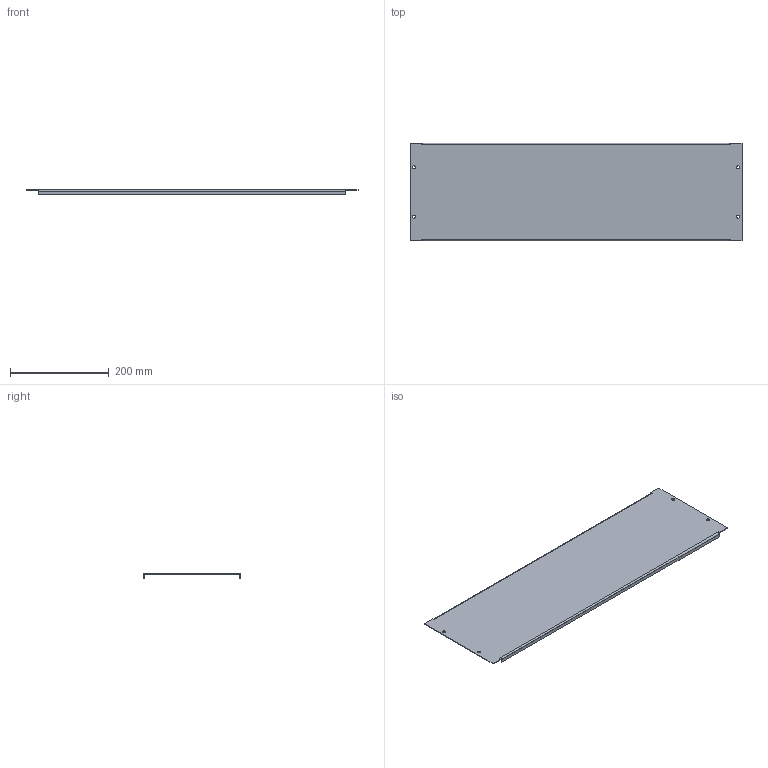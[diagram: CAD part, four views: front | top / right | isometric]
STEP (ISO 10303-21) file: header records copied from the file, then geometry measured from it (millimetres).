
FILE_DESCRIPTION(('STEP AP203'), '1');
FILE_NAME('Ïëàñòðîí ãëóõîé 200õ800 ìì OptiBox M 419394 ÊÝÀÇ', '', ('UNSPECIFIED'), ('UNSPECIFIED'), 'C3D Converter', 'C3D Toolkit', '');
FILE_SCHEMA(('CONFIG_CONTROL_DESIGN'));
Length unit declared in the file: millimetre
Bounding box: 672 x 197 x 10 mm (x, y, z)
Volume: 198236.2 mm3; surface area: 285816.6 mm2
Topology: 1 solids, 1 shells, 38 faces, 92 edges, 56 vertices
Faces by surface type: plane 30, cylinder 8
Full cylindrical faces by diameter (mm): 6.3 x4
Entity records: 1120 total; most frequent: CARTESIAN_POINT 183, DIRECTION 182, ORIENTED_EDGE 176, EDGE_CURVE 88, LINE 72, VECTOR 72, VERTEX_POINT 56, AXIS2_PLACEMENT_3D 55
